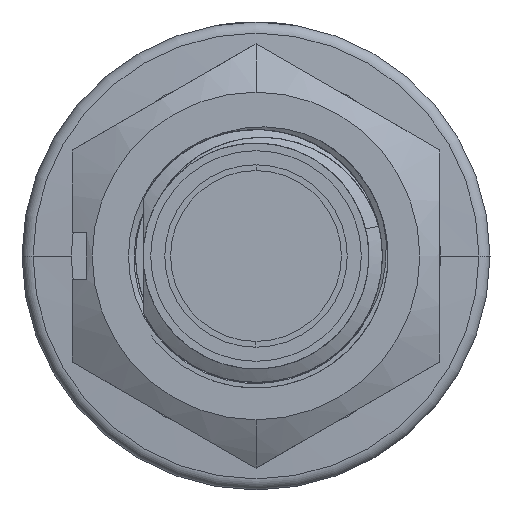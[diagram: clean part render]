
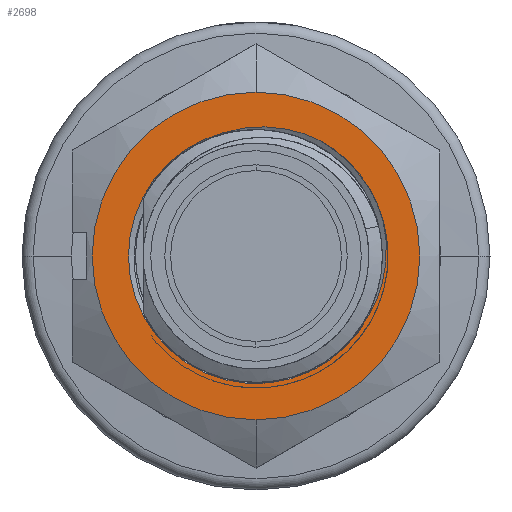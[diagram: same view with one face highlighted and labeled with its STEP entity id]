
A CAD part, left-side view. The second image highlights one B-rep face of the part: STEP entity #2698.
In plain terms, the highlighted planar face has unit normal (-1, 0, 0).
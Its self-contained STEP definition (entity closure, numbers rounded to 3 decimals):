
#148=CARTESIAN_POINT('',(-62.3,0.,7.));
#268=CARTESIAN_POINT('',(-62.3,-5.409,1.6));
#269=CARTESIAN_POINT('',(-62.3,-5.479,1.319));
#270=CARTESIAN_POINT('',(-62.3,-5.574,
0.755));
#271=CARTESIAN_POINT('',(-62.3,-5.585,
-0.102));
#272=CARTESIAN_POINT('',(-62.3,-5.468,
-0.942));
#273=CARTESIAN_POINT('',(-62.3,-5.223,
-1.755));
#274=CARTESIAN_POINT('',(-62.3,-4.982,
-2.258));
#275=CARTESIAN_POINT('',(-62.3,-4.842,
-2.502));
#444=CARTESIAN_POINT('',(-62.3,-2.694,4.956));
#445=CARTESIAN_POINT('',(-62.3,-2.911,4.838));
#446=CARTESIAN_POINT('',(-62.3,-3.326,4.576));
#447=CARTESIAN_POINT('',(-62.3,-3.896,4.102));
#448=CARTESIAN_POINT('',(-62.3,-4.397,3.558));
#449=CARTESIAN_POINT('',(-62.3,-4.825,2.955));
#450=CARTESIAN_POINT('',(-62.3,-5.169,2.298));
#451=CARTESIAN_POINT('',(-62.3,-5.339,1.837));
#452=CARTESIAN_POINT('',(-62.3,-5.409,1.6));
#648=CARTESIAN_POINT('',(-62.3,1.437,5.257));
#649=CARTESIAN_POINT('',(-62.3,1.213,5.33));
#650=CARTESIAN_POINT('',(-62.3,0.76,5.444));
#651=CARTESIAN_POINT('',(-62.3,0.062,5.529));
#652=CARTESIAN_POINT('',(-62.3,-0.653,
5.523));
#653=CARTESIAN_POINT('',(-62.3,-1.35,5.427));
#654=CARTESIAN_POINT('',(-62.3,-2.037,5.243));
#655=CARTESIAN_POINT('',(-62.3,-2.477,5.062));
#656=CARTESIAN_POINT('',(-62.3,-2.694,4.956));
#974=CARTESIAN_POINT('',(-62.3,0.,0.));
#975=DIRECTION('',(1.,0.,0.));
#976=DIRECTION('',(0.,0.,-1.));
#977=AXIS2_PLACEMENT_3D('',#974,#975,#976);
#979=CARTESIAN_POINT('',(-62.3,0.,0.));
#980=DIRECTION('',(1.,0.,0.));
#981=DIRECTION('',(0.,0.,1.));
#982=AXIS2_PLACEMENT_3D('',#979,#980,#981);
#984=CARTESIAN_POINT('',(-62.3,0.,0.));
#985=DIRECTION('',(-1.,0.,0.));
#986=DIRECTION('',(0.,0.264,0.965));
#987=AXIS2_PLACEMENT_3D('',#984,#985,#986);
#989=CARTESIAN_POINT('',(-62.3,0.,0.));
#990=DIRECTION('',(-1.,0.,0.));
#991=DIRECTION('',(0.,1.,0.));
#992=AXIS2_PLACEMENT_3D('',#989,#990,#991);
#1143=VERTEX_POINT('',#148);
#1144=CARTESIAN_POINT('',(-62.3,0.,-7.));
#1145=VERTEX_POINT('',#1144);
#1146=VERTEX_POINT('',#268);
#1147=VERTEX_POINT('',#275);
#1148=VERTEX_POINT('',#444);
#1149=VERTEX_POINT('',#648);
#1172=CARTESIAN_POINT('',(-62.3,5.45,0.));
#1173=VERTEX_POINT('',#1172);
#2682=CARTESIAN_POINT('',(-62.3,0.,0.));
#2683=DIRECTION('',(1.,0.,0.));
#2684=DIRECTION('',(0.,0.,-1.));
#2685=AXIS2_PLACEMENT_3D('',#2682,#2683,#2684);
#2686=PLANE('',#2685);
#2687=ORIENTED_EDGE('',*,*,#1353,.T.);
#2688=ORIENTED_EDGE('',*,*,#1214,.T.);
#2689=EDGE_LOOP('',(#2687,#2688));
#2690=FACE_OUTER_BOUND('',#2689,.F.);
#2691=ORIENTED_EDGE('',*,*,#1858,.F.);
#2692=ORIENTED_EDGE('',*,*,#2034,.F.);
#2693=ORIENTED_EDGE('',*,*,#2543,.F.);
#2694=ORIENTED_EDGE('',*,*,#2670,.T.);
#2695=ORIENTED_EDGE('',*,*,#2668,.T.);
#2696=EDGE_LOOP('',(#2691,#2692,#2693,#2694,#2695));
#2697=FACE_BOUND('',#2696,.F.);
#2698=ADVANCED_FACE('',(#2690,#2697),#2686,.F.);
#276=B_SPLINE_CURVE_WITH_KNOTS('',3,(#268,#269,#270,#271,#272,#273,#274,#275),
.UNSPECIFIED.,.F.,.F.,(4,1,1,1,1,4),(0.,0.2,0.4,0.6,0.8,1.),
.UNSPECIFIED.);
#453=B_SPLINE_CURVE_WITH_KNOTS('',3,(#444,#445,#446,#447,#448,#449,#450,#451,
#452),.UNSPECIFIED.,.F.,.F.,(4,1,1,1,1,1,4),(0.,0.167,
0.333,0.5,0.667,0.833,1.),
.UNSPECIFIED.);
#657=B_SPLINE_CURVE_WITH_KNOTS('',3,(#648,#649,#650,#651,#652,#653,#654,#655,
#656),.UNSPECIFIED.,.F.,.F.,(4,1,1,1,1,1,4),(0.,0.167,
0.333,0.5,0.667,0.833,1.),
.UNSPECIFIED.);
#978=CIRCLE('',#977,7.);
#983=CIRCLE('',#982,7.);
#988=CIRCLE('',#987,5.45);
#993=CIRCLE('',#992,5.45);
#1214=EDGE_CURVE('',#1143,#1145,#983,.T.);
#1353=EDGE_CURVE('',#1145,#1143,#978,.T.);
#1858=EDGE_CURVE('',#1146,#1147,#276,.T.);
#2034=EDGE_CURVE('',#1148,#1146,#453,.T.);
#2543=EDGE_CURVE('',#1149,#1148,#657,.T.);
#2668=EDGE_CURVE('',#1173,#1147,#993,.T.);
#2670=EDGE_CURVE('',#1149,#1173,#988,.T.);
